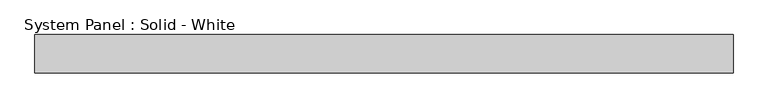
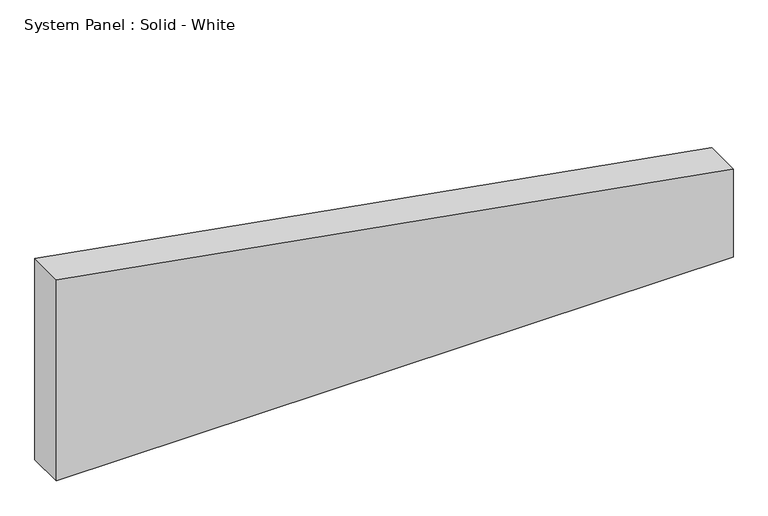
"""IFC4 building model written with IfcOpenShell, lengths in millimetres: plate geometry, System Panel : Solid - White."""

from ifc_helpers import new_model, si_unit, frame, origin, place, context, project, spatial, polyline, outline, extrude, source, transform, mapped, element, save


def system_panel_solid_white_88771e70(model_context):
    return source(origin(), model_context, "Body", "SweptSolid", [
        extrude(outline(polyline([(0.0, -575.3099999), (0.0, 575.3099999), (158.5599346, 575.3099999), (361.4452851, -575.3099999), (0.0, -575.3099999)])), frame((0.0, -19.05, 0.0), z_axis=(0.0, 1.0, 0.0), x_axis=(0.0, 0.0, 1.0)), (0.0, 0.0, 1.0), 63.5),
    ])


if __name__ == "__main__":
    model = new_model("IFC4")
    model_context = context("Model", 3, world=origin())
    ifc_project = project(units=[si_unit("LENGTHUNIT", "METRE", prefix="MILLI")], contexts=[model_context])
    site = spatial("IfcSite", under=ifc_project)
    building = spatial("IfcBuilding", under=site)
    placement = place(None, origin())
    system_panel_solid_white_shape = system_panel_solid_white_88771e70(model_context)
    element("IfcPlate", 1, ObjectType="System Panel : Solid - White", at=placement, inside=building, context=model_context, shape_type="MappedRepresentation", body=[
        mapped(system_panel_solid_white_shape, transform((0.0, 0.0, 0.0), x_axis=(1.0, 0.0, 0.0), y_axis=(0.0, 1.0, 0.0), z_axis=(0.0, 0.0, 1.0))),
    ])
    save(model, "model.ifc")
